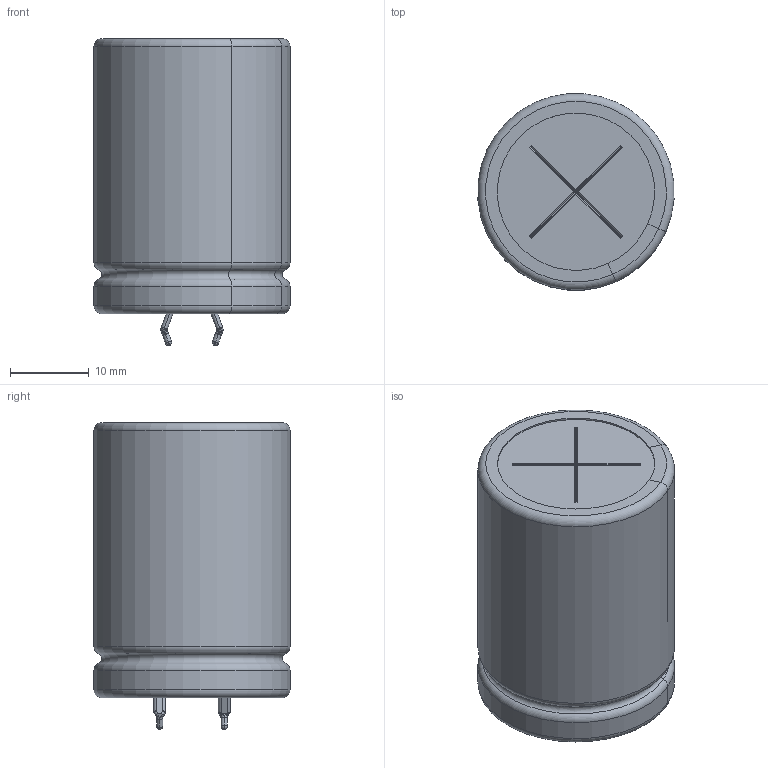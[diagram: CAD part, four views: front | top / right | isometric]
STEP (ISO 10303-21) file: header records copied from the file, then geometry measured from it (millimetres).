
FILE_DESCRIPTION(/* description */ (''),/* implementation_level */ '2;1');
FILE_NAME(/* name */ '25x35_Snap.stp',/* time_stamp */ '2017-09-11T14:48:50+09:00',/* author */ (''),/* organization */ (''),/* preprocessor_version */ 'ST-DEVELOPER v16',/* originating_system */ 'SIEMENS PLM Software NX 11.0',/* authorisation */ '');
FILE_SCHEMA (('AUTOMOTIVE_DESIGN { 1 0 10303 214 3 1 1 1 }'));
Length unit declared in the file: millimetre
Products named in the file (1): 25x35_Snap_0
Bounding box: 24.93 x 24.93 x 39.02 mm (x, y, z)
Volume: 16930.5 mm3; surface area: 9937.6 mm2
Topology: 5 solids, 5 shells, 208 faces, 523 edges, 310 vertices
Faces by surface type: cylinder 76, plane 75, torus 25, sphere 20, bspline 12
Full cylindrical faces by diameter (mm): 4 x2, 24.6 x2
Entity records: 6789 total; most frequent: CARTESIAN_POINT 1265, DIRECTION 1128, ORIENTED_EDGE 988, EDGE_CURVE 494, AXIS2_PLACEMENT_3D 437, VERTEX_POINT 310, LINE 254, VECTOR 254
